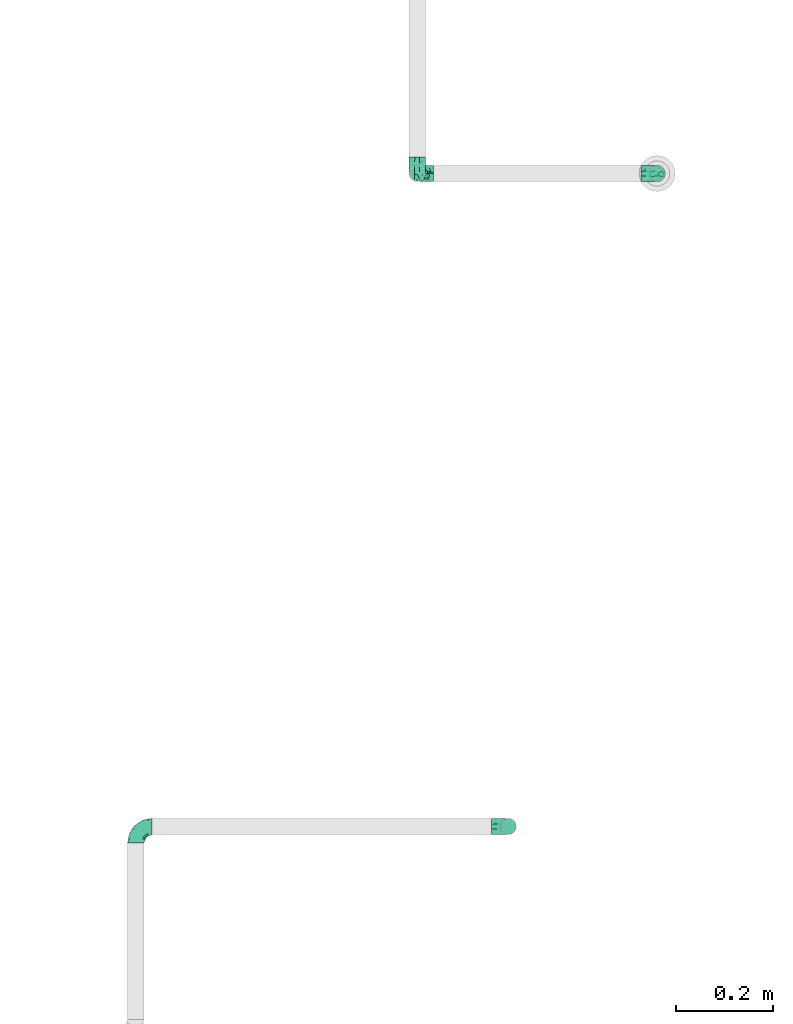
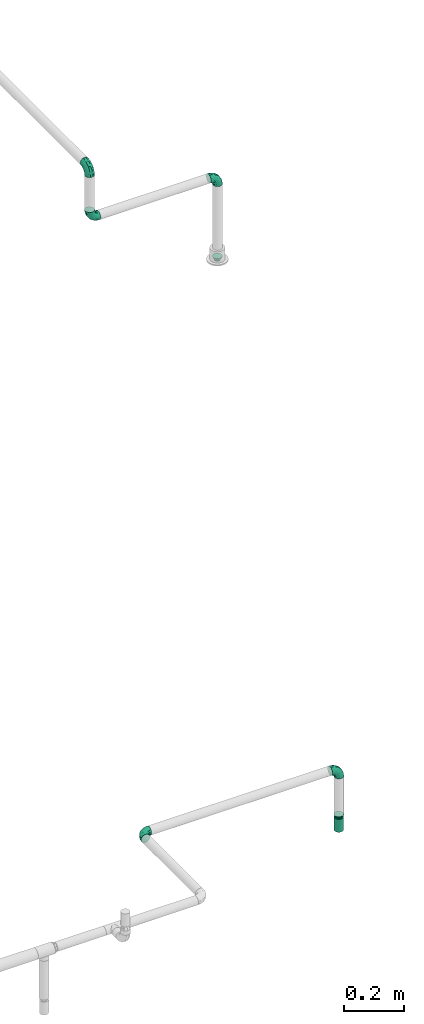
# One storey, part 73 of 95: 7 flow fittings, 1 flow terminal.
"""IFC2X3 building model written with IfcOpenShell, lengths in millimetres."""

from ifc_helpers import new_model, entity, si_unit, converted_unit, derived_unit, direction, frame, origin_with_axes, place, context, subcontext, project, spatial, open_shell, surface_model, source, transform, mapped, type_object, element, save


model = new_model("IFC2X3")

# Units and contexts
model_context = context("Model", 3, precision=0.01, world=frame((0.0, 4.29681676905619e-09, 0.0)), true_north=direction((4.01073788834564e-13, 1.0)))
plan_context = context("Plan", 3, precision=0.01, world=frame((0.0, 4.29681676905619e-09, 0.0)), true_north=direction((4.01073788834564e-13, 1.0)))
body_context = subcontext(model_context, "Body", "Model", "MODEL_VIEW")
ifc_project = project(units=[converted_unit("PLANEANGLEUNIT", "DEGREE", entity("IfcPositiveLengthMeasure", 0.0174532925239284), si_unit("PLANEANGLEUNIT", "RADIAN"), dimensions=[0, 0, 0, 0, 0, 0, 0]), si_unit("AREAUNIT", "SQUARE_METRE"), si_unit("LENGTHUNIT", "METRE", prefix="MILLI"), si_unit("MASSUNIT", "GRAM", prefix="KILO"), si_unit("POWERUNIT", "WATT"), si_unit("PRESSUREUNIT", "PASCAL"), si_unit("FORCEUNIT", "NEWTON", prefix="KILO"), si_unit("ELECTRICVOLTAGEUNIT", "VOLT"), si_unit("ELECTRICCURRENTUNIT", "AMPERE"), si_unit("THERMODYNAMICTEMPERATUREUNIT", "DEGREE_CELSIUS"), si_unit("TIMEUNIT", "SECOND"), si_unit("VOLUMEUNIT", "CUBIC_METRE"), derived_unit("LINEARVELOCITYUNIT", [(si_unit("LENGTHUNIT", "METRE"), 1), (si_unit("TIMEUNIT", "SECOND"), -1)]), derived_unit("VOLUMETRICFLOWRATEUNIT", [(si_unit("VOLUMEUNIT", "CUBIC_METRE"), 1), (si_unit("TIMEUNIT", "SECOND"), -1)]), derived_unit("THERMALTRANSMITTANCEUNIT", [(si_unit("POWERUNIT", "WATT"), 1), (si_unit("THERMODYNAMICTEMPERATUREUNIT", "KELVIN"), -1), (si_unit("AREAUNIT", "SQUARE_METRE"), -1)]), derived_unit("SOUNDPRESSUREUNIT", [(si_unit("PRESSUREUNIT", "PASCAL"), 1)])], contexts=[model_context, plan_context])

# Site, building, storey
site_placement = place(None, frame((0.0, -4.29681676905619e-09, 0.0), z_axis=(0.0, 0.0, 1.0), x_axis=(1.0, 0.0, 0.0)))
site = spatial("IfcSite", under=ifc_project, at=site_placement, CompositionType="ELEMENT")
building_placement = place(site_placement, frame((0.0, 4.29681676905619e-09, 0.0), z_axis=(0.0, 0.0, 1.0), x_axis=(1.0, 0.0, 0.0)))
building = spatial("IfcBuilding", under=site, at=building_placement, Name="mc-building", CompositionType="ELEMENT")
storey_placement = place(building_placement, frame((0.0, 0.0, 210900.0), z_axis=(0.0, 0.0, 1.0), x_axis=(1.0, 0.0, 0.0)))
storey = spatial("IfcBuildingStorey", under=building, at=storey_placement, Name="Nivå F", CompositionType="ELEMENT", Elevation=210900.0)

# Flow fittings
pipe_fitting_type_1 = type_object("IfcPipeFittingType", Name="magi_pipe_fe_reducer_centric_short_NOR", PredefinedType="TRANSITION")
shared_shape_1 = source(origin_with_axes(), body_context, "Body", "SurfaceModel", [
    surface_model("IfcShellBasedSurfaceModel", [(14.4, 5.35, -9.26647), (14.4, 0.0, -10.7), (14.4, 2.76936, -10.33541), (14.4, 10.33541, -2.76936), (14.4, 7.56604, -7.56604), (14.4, -10.33541, -2.76936), (14.4, 9.26647, -5.35), (14.4, 0.0, 10.7), (14.4, -5.35, -9.26647), (14.4, -2.76936, -10.33541), (14.4, -7.56604, -7.56604), (14.4, -9.26647, -5.35), (14.4, 10.7, 0.0), (14.4, 10.33541, 2.76936), (14.4, 9.26647, 5.35), (14.4, 7.56604, 7.56604), (14.4, 2.76936, 10.33541), (14.4, 5.35, 9.26647), (14.4, -10.33541, 2.76936), (14.4, -7.56604, 7.56604), (14.4, -9.26647, 5.35), (14.4, -10.7, 0.0), (14.4, -2.76936, 10.33541), (14.4, -5.35, 9.26647), (12.4, 2.76936, 10.33541), (12.4, -10.33541, -2.76936), (12.4, 0.0, 10.7), (12.4, 5.35, 9.26647), (12.4, 7.56604, 7.56604), (12.4, 9.26647, 5.35), (12.4, 10.33541, 2.76936), (12.4, -10.33541, 2.76936), (12.4, -2.76936, 10.33541), (12.4, -7.56604, 7.56604), (12.4, -5.35, 9.26647), (12.4, -9.26647, 5.35), (12.4, -10.7, 0.0), (12.4, 10.33541, -2.76936), (12.4, 5.35, -9.26647), (12.4, 9.26647, -5.35), (12.4, 7.56604, -7.56604), (12.4, 2.76936, -10.33541), (12.4, -9.26647, -5.35), (12.4, -5.35, -9.26647), (12.4, -7.56604, -7.56604), (12.4, 0.0, -10.7), (12.4, -2.76936, -10.33541), (12.4, 10.7, 0.0), (-2.0, 11.9501, 11.9501), (-2.0, 0.0, 16.9), (-2.0, 4.37404, 16.32415), (-2.0, 8.45, 14.63583), (-2.0, 14.63583, 8.45), (-2.0, 16.32415, 4.37404), (-2.0, -16.32415, 4.37404), (-2.0, -8.45, 14.63583), (-2.0, -14.63583, 8.45), (-2.0, -11.9501, 11.9501), (-2.0, -4.37404, 16.32415), (-2.0, -16.32415, -4.37404), (-2.0, -16.9, 0.0), (-2.0, -8.45, -14.63583), (-2.0, 16.32415, -4.37404), (-2.0, 11.9501, -11.9501), (-2.0, 14.63583, -8.45), (-2.0, 8.45, -14.63583), (-2.0, 4.37404, -16.32415), (-2.0, 0.0, -16.9), (-2.0, -11.9501, -11.9501), (-2.0, -14.63583, -8.45), (-2.0, -4.37404, -16.32415), (-2.0, 16.9, 0.0), (0.0, 4.37404, -16.32415), (0.0, 8.45, -14.63583), (0.0, 11.9501, -11.9501), (0.0, 0.0, -16.9), (0.0, 16.32415, -4.37404), (0.0, 16.32415, 4.37404), (0.0, 14.63583, -8.45), (0.0, -8.45, -14.63583), (0.0, -4.37404, -16.32415), (0.0, -11.9501, -11.9501), (0.0, -16.32415, -4.37404), (0.0, -14.63583, -8.45), (0.0, -16.32415, 4.37404), (0.0, 16.9, 0.0), (0.0, 14.63583, 8.45), (0.0, 11.9501, 11.9501), (0.0, 4.37404, 16.32415), (0.0, 8.45, 14.63583), (0.0, 0.0, 16.9), (0.0, -14.63583, 8.45), (0.0, -16.9, 0.0), (0.0, -8.45, 14.63583), (0.0, -11.9501, 11.9501), (0.0, -4.37404, 16.32415), (12.4, 9.3625, -2.31662), (0.0, 14.42505, -5.97505), (0.0, 15.66253, -2.98753), (12.4, -6.6875, -6.94985), (0.0, -13.18758, -8.96258), (0.0, 2.98753, -15.66253), (12.4, 0.0, -9.26647), (12.4, 6.6875, -6.94985), (0.0, 8.96258, -13.18758), (12.4, -9.3625, -2.31662), (0.0, -15.66253, -2.98753), (0.0, -14.42505, -5.97505), (0.0, 5.97505, -14.42505), (0.0, -2.98753, -15.66253), (0.0, -8.96258, -13.18758), (0.0, 13.18758, -8.96258), (12.4, 8.025, -4.63324), (12.4, -2.675, -9.26647), (12.4, 2.675, -9.26647), (0.0, -5.97505, -14.42505), (12.4, -8.025, -4.63324), (12.4, -9.3625, 2.31662), (0.0, -14.42505, 5.97505), (0.0, -15.66253, 2.98753), (12.4, 6.6875, 6.94985), (0.0, 13.18758, 8.96258), (0.0, -2.98753, 15.66253), (12.4, 0.0, 9.26647), (12.4, -6.6875, 6.94985), (0.0, -8.96258, 13.18758), (12.4, 9.3625, 2.31662), (0.0, 15.66253, 2.98753), (0.0, 14.42505, 5.97505), (0.0, -5.97505, 14.42505), (0.0, 2.98753, 15.66253), (0.0, 8.96258, 13.18758), (0.0, -13.18758, 8.96258), (12.4, -8.025, 4.63324), (12.4, 2.675, 9.26647), (12.4, -2.675, 9.26647), (0.0, 5.97505, 14.42505), (12.4, 8.025, 4.63324)], [open_shell([[[0, 1, 2]], [[3, 0, 4]], [[5, 0, 3]], [[3, 4, 6]], [[7, 5, 3]], [[1, 8, 9]], [[1, 0, 8]], [[10, 5, 11]], [[5, 10, 8]], [[0, 5, 8]], [[3, 12, 13]], [[13, 14, 15]], [[13, 15, 16]], [[7, 3, 16]], [[16, 15, 17]], [[7, 18, 5]], [[18, 19, 20]], [[21, 5, 18]], [[19, 22, 23]], [[22, 19, 18]], [[7, 22, 18]], [[13, 16, 3]], [[24, 25, 26]], [[27, 25, 24]], [[28, 29, 30]], [[28, 25, 27]], [[31, 26, 25]], [[32, 33, 34]], [[33, 32, 31]], [[33, 31, 35]], [[32, 26, 31]], [[31, 25, 36]], [[30, 37, 28]], [[25, 28, 37]], [[38, 37, 39]], [[37, 38, 25]], [[38, 39, 40]], [[41, 25, 38]], [[42, 43, 44]], [[43, 42, 25]], [[43, 45, 46]], [[43, 25, 41]], [[41, 45, 43]], [[37, 30, 47]], [[25, 5, 36]], [[42, 11, 25]], [[8, 44, 43]], [[42, 44, 10]], [[9, 43, 46]], [[25, 11, 5]], [[5, 21, 36]], [[9, 8, 43]], [[10, 44, 8]], [[10, 11, 42]], [[1, 9, 46]], [[46, 45, 1]], [[41, 2, 45]], [[38, 0, 41]], [[6, 40, 39]], [[38, 40, 4]], [[3, 39, 37]], [[38, 4, 0]], [[0, 2, 41]], [[12, 3, 37]], [[6, 39, 3]], [[6, 4, 40]], [[47, 12, 37]], [[45, 2, 1]], [[30, 13, 47]], [[29, 14, 30]], [[17, 28, 27]], [[29, 28, 15]], [[16, 27, 24]], [[30, 14, 13]], [[13, 12, 47]], [[16, 17, 27]], [[15, 28, 17]], [[15, 14, 29]], [[7, 16, 24]], [[24, 26, 7]], [[32, 22, 26]], [[34, 23, 32]], [[20, 33, 35]], [[34, 33, 19]], [[18, 35, 31]], [[34, 19, 23]], [[23, 22, 32]], [[21, 18, 31]], [[20, 35, 18]], [[20, 19, 33]], [[36, 21, 31]], [[26, 22, 7]], [[48, 49, 50]], [[48, 50, 51]], [[48, 52, 53]], [[48, 53, 49]], [[49, 53, 54]], [[55, 56, 57]], [[55, 58, 49]], [[56, 55, 49]], [[49, 54, 56]], [[54, 59, 60]], [[54, 53, 61]], [[53, 62, 63]], [[63, 62, 64]], [[63, 65, 66]], [[61, 53, 63]], [[67, 63, 66]], [[59, 68, 69]], [[68, 59, 61]], [[61, 67, 70]], [[59, 54, 61]], [[63, 67, 61]], [[53, 71, 62]], [[72, 73, 74]], [[75, 72, 74]], [[74, 76, 77]], [[76, 74, 78]], [[74, 77, 79]], [[75, 79, 80]], [[75, 74, 79]], [[81, 82, 83]], [[82, 81, 79]], [[79, 84, 82]], [[77, 76, 85]], [[77, 86, 87]], [[77, 87, 88]], [[88, 84, 79]], [[88, 87, 89]], [[84, 88, 90]], [[90, 91, 84]], [[92, 82, 84]], [[91, 93, 94]], [[91, 90, 93]], [[93, 90, 95]], [[79, 77, 88]], [[59, 82, 60]], [[69, 83, 59]], [[79, 68, 61]], [[69, 68, 81]], [[80, 61, 70]], [[59, 83, 82]], [[82, 92, 60]], [[80, 79, 61]], [[81, 68, 79]], [[81, 83, 69]], [[75, 80, 70]], [[70, 67, 75]], [[66, 72, 67]], [[65, 73, 66]], [[78, 63, 64]], [[65, 63, 74]], [[76, 64, 62]], [[65, 74, 73]], [[73, 72, 66]], [[85, 76, 62]], [[78, 64, 76]], [[78, 74, 63]], [[71, 85, 62]], [[67, 72, 75]], [[53, 77, 71]], [[52, 86, 53]], [[89, 48, 51]], [[52, 48, 87]], [[88, 51, 50]], [[53, 86, 77]], [[77, 85, 71]], [[88, 89, 51]], [[87, 48, 89]], [[87, 86, 52]], [[90, 88, 50]], [[50, 49, 90]], [[58, 95, 49]], [[55, 93, 58]], [[91, 57, 56]], [[55, 57, 94]], [[84, 56, 54]], [[55, 94, 93]], [[93, 95, 58]], [[92, 84, 54]], [[91, 56, 84]], [[91, 94, 57]], [[60, 92, 54]], [[49, 95, 90]], [[27, 34, 47]], [[47, 34, 43]], [[43, 38, 47]], [[43, 34, 36]], [[90, 87, 94]], [[92, 94, 87]], [[87, 74, 92]], [[75, 92, 74]], [[81, 92, 75]], [[74, 87, 85]], [[96, 97, 98]], [[81, 99, 100]], [[101, 102, 75]], [[98, 85, 47]], [[74, 103, 104]], [[104, 103, 38]], [[105, 106, 107]], [[38, 108, 104]], [[102, 109, 75]], [[110, 99, 81]], [[47, 96, 98]], [[103, 111, 112]], [[109, 102, 113]], [[36, 92, 106]], [[102, 101, 114]], [[110, 115, 43]], [[96, 112, 97]], [[107, 116, 105]], [[36, 106, 105]], [[113, 115, 109]], [[43, 115, 113]], [[116, 107, 100]], [[108, 38, 114]], [[111, 103, 74]], [[111, 97, 112]], [[99, 110, 43]], [[116, 100, 99]], [[101, 108, 114]], [[117, 118, 119]], [[87, 120, 121]], [[122, 123, 90]], [[119, 92, 36]], [[94, 124, 125]], [[125, 124, 34]], [[126, 127, 128]], [[34, 129, 125]], [[123, 130, 90]], [[131, 120, 87]], [[36, 117, 119]], [[124, 132, 133]], [[130, 123, 134]], [[47, 85, 127]], [[123, 122, 135]], [[131, 136, 27]], [[117, 133, 118]], [[128, 137, 126]], [[47, 127, 126]], [[134, 136, 130]], [[27, 136, 134]], [[137, 128, 121]], [[129, 34, 135]], [[132, 124, 94]], [[132, 118, 133]], [[120, 131, 27]], [[137, 121, 120]], [[122, 129, 135]]])]),
])
for number, where, z_axis, x_axis, name in (
    (1, (523297.57166, 458598.02191, 3769.25200000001), (0.0, -1.0, 0.0), (0.0, 0.0, -1.0), "magi_pipe_fe_reducer_centric_short_NOR"),
    (2, (522990.24238, 457251.63483, 2409.35200000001), (0.0, -1.0, 0.0), (0.0, 0.0, -1.0), "magi_pipe_fe_reducer_centric_short_NOR"),
):
    element("IfcFlowFitting", number, at=place(storey_placement, frame(where, z_axis=z_axis, x_axis=x_axis)), inside=storey, type_object=pipe_fitting_type_1, Name=name, context=body_context, shape_type="MappedRepresentation", body=[
        mapped(shared_shape_1, transform((0.0, 0.0, 0.0), scale=1.0)),
    ])
pipe_fitting_type_2 = type_object("IfcPipeFittingType", Name="magi_pipe_fe_elbow_short_001", PredefinedType="BEND")
shared_shape_2 = source(origin_with_axes(), body_context, "Body", "SurfaceModel", [
    surface_model("IfcShellBasedSurfaceModel", [(-33.8, 8.45, -14.63583), (-33.8, 4.37404, -16.32415), (-33.8, 11.9501, -11.9501), (-33.8, -11.9501, -11.9501), (-33.8, -14.63583, -8.45), (-33.8, -8.45, -14.63583), (-33.8, 0.0, -16.9), (-33.8, -4.37404, -16.32415), (-33.8, -4.37404, 16.32415), (-33.8, 0.0, 16.9), (-33.8, -8.45, 14.63583), (-33.8, 16.32415, -4.37404), (-33.8, 14.63583, -8.45), (-33.8, -16.32415, -4.37404), (-33.8, -16.9, 0.0), (-33.8, -16.32415, 4.37404), (-33.8, 11.9501, 11.9501), (-33.8, 14.63583, 8.45), (-33.8, 16.32415, 4.37404), (-33.8, 4.37404, 16.32415), (-33.8, 8.45, 14.63583), (-33.8, -14.63583, 8.45), (-33.8, -11.9501, 11.9501), (-33.8, 16.9, 0.0), (-11.9501, 33.8, -11.9501), (0.0, 33.8, -16.9), (-4.37404, 33.8, -16.32415), (-8.45, 33.8, -14.63583), (-14.63583, 33.8, -8.45), (-16.32415, 33.8, -4.37404), (14.63583, 33.8, -8.45), (8.45, 33.8, 14.63583), (16.32415, 33.8, -4.37404), (8.45, 33.8, -14.63583), (11.9501, 33.8, -11.9501), (4.37404, 33.8, -16.32415), (16.32415, 33.8, 4.37404), (16.9, 33.8, 0.0), (-11.9501, 33.8, 11.9501), (-16.32415, 33.8, 4.37404), (-14.63583, 33.8, 8.45), (-8.45, 33.8, 14.63583), (-4.37404, 33.8, 16.32415), (11.9501, 33.8, 11.9501), (14.63583, 33.8, 8.45), (0.0, 33.8, 16.9), (4.37404, 33.8, 16.32415), (-16.9, 33.8, 0.0), (-24.79389, -13.12945, 9.48721), (-22.19287, -9.75018, 12.59315), (-24.09897, -14.97035, 0.0), (-14.93934, -10.76256, 8.5297), (-22.46095, -14.75051, 5.27077), (14.75051, 22.46094, 5.27077), (11.9251, 13.23888, 4.33236), (13.04069, 14.39795, 0.0), (7.71387, 13.68847, 11.55891), (9.75018, 22.19287, 12.59315), (4.10169, 13.0571, 14.04018), (-24.84007, -6.39063, 15.2048), (-25.81779, -2.23879, 16.61097), (-23.66549, 2.59054, 16.87119), (-26.50418, 14.06512, 11.08152), (-24.21253, 17.66365, 7.72657), (-29.58514, 15.86957, 7.00283), (-6.17382, -7.5455, 0.0), (-13.23888, -11.9251, 4.33236), (-14.39795, -13.04069, 0.0), (-17.81434, 18.87373, 11.97104), (-6.30846, 29.15138, 15.82987), (-2.31622, 25.28002, 16.85849), (-29.23923, 10.23435, 13.77053), (-1.45439, -2.85688, 7.61475), (-0.28326, 0.34872, 10.09509), (-5.74484, -4.04709, 10.4122), (-4.41137, 11.31918, 16.59407), (-8.39727, 3.10034, 15.7812), (-1.72649, 9.1306, 15.53089), (-17.39909, 24.75344, 7.64977), (-26.19233, 20.0512, 0.0), (-28.14518, 17.29657, 4.25857), (-26.05147, 6.6281, 15.96447), (-5.87354, 16.61944, 16.86968), (-12.51807, 12.51807, 16.48937), (-10.06312, 7.38516, 16.81295), (-3.01882, 3.01882, 13.81718), (-13.0571, -4.10169, 14.04018), (-16.82553, -0.15166, 16.38038), (10.76256, 14.93934, 8.5297), (13.12945, 24.79389, 9.48721), (6.39063, 24.84007, 15.2048), (2.23879, 25.81779, 16.61097), (-13.68847, -7.71387, 11.55891), (14.97035, 24.09897, 0.0), (-7.30894, 22.89991, 16.09489), (-10.67958, 26.17414, 14.008), (-12.78295, 18.26924, 15.06066), (-13.88562, 22.45231, 12.93244), (-18.04944, 15.16501, 14.04434), (-23.11658, 20.08178, 4.02986), (-21.84989, 21.84989, 0.0), (-18.55817, 25.48277, 3.93065), (-13.95142, 26.94732, 11.03289), (-18.57098, 7.23906, 16.59756), (-16.58335, 4.14122, 16.89279), (-17.96666, 11.46709, 15.63151), (-9.84453, 17.54304, 16.18938), (0.15166, 16.82553, 16.38038), (-23.27207, 11.47201, 14.23154), (3.84842, 5.86994, 10.70473), (-8.0212, -7.54413, 7.93275), (1.00345, -2.19508, 4.57414), (5.13203, 3.01004, 5.90201), (5.24161, 1.7543, 2.53265), (8.70457, 7.04947, 3.99182), (-20.0512, 26.19233, 0.0), (8.4852, 8.76699, 7.09296), (-4.55488, -6.72064, 4.90681), (2.05031, -2.05031, 0.0), (7.5455, 6.17382, 0.0), (-26.75399, 2.1369, -16.845), (-14.61995, 24.73803, -11.27736), (-28.45274, -13.45335, -9.81895), (-26.00469, 6.63555, -15.96645), (-23.06726, 20.04573, -4.26202), (-13.80647, -4.26506, -14.17873), (-14.67501, -0.21081, -16.07388), (-6.7902, -0.2828, -13.8478), (-24.53586, 11.08096, -14.13417), (-26.72048, 14.00837, -11.05776), (10.0967, 24.44989, -12.75976), (5.83237, 21.40218, -15.03047), (6.66249, 28.54238, -15.38093), (-20.38182, 15.48705, -12.74596), (12.53268, 21.23441, -9.15363), (12.54494, 15.67504, -5.54878), (9.7522, 12.89279, -8.66343), (-15.65186, 19.64213, -13.01327), (-12.03528, 20.66498, -14.67665), (-15.61907, 15.61906, -14.83879), (-25.56551, -15.26206, 0.0), (-24.65452, -15.12934, -5.50955), (13.45335, 28.45274, -9.81895), (15.12934, 24.65452, -5.50955), (-7.35442, -8.31014, -5.65563), (-15.67504, -12.54494, -5.54878), (-24.44989, -10.0967, -12.75976), (0.16522, 0.41303, -9.71728), (-5.70658, -5.33066, -8.89288), (-5.13869, -2.37198, -11.53565), (-21.23441, -12.53268, -9.15363), (0.71146, 7.93863, -14.09382), (0.21081, 14.67501, -16.07388), (3.49291, 14.42772, -14.76381), (-24.89911, -2.13088, -16.591), (-28.54238, -6.66249, -15.38093), (-18.44386, -7.71663, -13.26957), (2.13088, 24.89911, -16.591), (-28.64342, 17.44413, -2.89318), (1.70017, -1.28722, -5.09504), (-16.57067, 26.81947, -7.36596), (-17.69055, 27.4263, -3.76405), (-12.89279, -9.7522, -8.66343), (-5.96611, 5.96611, -15.95814), (-20.53709, 20.09345, -8.28985), (-2.1369, 26.75399, -16.845), (-6.89872, 24.58781, -16.02578), (-10.60739, 26.53157, -13.98044), (-21.40218, -5.83237, -15.03047), (2.93192, 5.89627, -11.55917), (6.89393, 12.61842, -11.82233), (5.58056, 5.95325, -8.79455), (-3.99512, 18.61798, -16.89635), (8.31014, 7.35442, -5.65563), (-9.1383, 9.86148, -16.89041), (-9.99983, 16.02119, -16.39699), (-16.68576, 9.78031, -16.34199), (-27.01915, 16.61158, -7.12979), (15.26206, 25.56551, 0.0), (-18.61798, 3.99512, -16.89635), (-19.37495, 27.82495, 0.0), (-12.61842, -6.89393, -11.82233), (-18.84705, 19.14018, -10.96545)], [open_shell([[[0, 1, 2]], [[3, 4, 5]], [[6, 7, 5]], [[8, 9, 10]], [[1, 6, 2]], [[11, 12, 2]], [[4, 2, 6]], [[2, 13, 10]], [[5, 4, 6]], [[2, 4, 13]], [[14, 15, 13]], [[11, 2, 16]], [[11, 17, 18]], [[11, 16, 17]], [[19, 20, 16]], [[16, 2, 10]], [[19, 16, 10]], [[21, 22, 15]], [[22, 13, 15]], [[22, 10, 13]], [[10, 9, 19]], [[11, 18, 23]], [[24, 25, 26]], [[24, 26, 27]], [[24, 28, 29]], [[25, 24, 30]], [[31, 32, 24]], [[33, 30, 34]], [[33, 35, 25]], [[25, 30, 33]], [[32, 30, 24]], [[32, 36, 37]], [[38, 24, 29]], [[39, 40, 29]], [[40, 38, 29]], [[38, 41, 42]], [[38, 31, 24]], [[31, 38, 42]], [[36, 43, 44]], [[36, 32, 43]], [[31, 45, 46]], [[32, 31, 43]], [[42, 45, 31]], [[39, 29, 47]], [[22, 48, 49]], [[15, 14, 50]], [[51, 48, 52]], [[53, 54, 55]], [[48, 22, 21]], [[15, 52, 21]], [[56, 57, 58]], [[49, 10, 22]], [[49, 59, 10]], [[9, 60, 61]], [[62, 63, 64]], [[65, 66, 67]], [[57, 43, 31]], [[62, 68, 63]], [[42, 69, 70]], [[20, 71, 16]], [[8, 60, 9]], [[72, 73, 74]], [[75, 76, 77]], [[16, 62, 17]], [[40, 39, 78]], [[79, 23, 80]], [[64, 18, 17]], [[9, 61, 19]], [[19, 81, 20]], [[82, 83, 84]], [[74, 85, 86]], [[59, 86, 87]], [[88, 89, 57]], [[90, 31, 46]], [[44, 53, 36]], [[46, 45, 91]], [[54, 53, 88]], [[44, 89, 53]], [[92, 86, 49]], [[89, 44, 43]], [[10, 59, 8]], [[53, 55, 93]], [[93, 36, 53]], [[66, 52, 67]], [[94, 82, 70]], [[95, 96, 94]], [[97, 98, 96]], [[79, 99, 100]], [[41, 38, 95]], [[101, 100, 99]], [[68, 78, 63]], [[42, 41, 69]], [[23, 18, 80]], [[95, 94, 69]], [[78, 101, 99]], [[38, 102, 95]], [[70, 45, 42]], [[97, 95, 102]], [[15, 50, 52]], [[90, 57, 31]], [[57, 90, 58]], [[81, 19, 61]], [[103, 104, 84]], [[105, 81, 103]], [[38, 40, 102]], [[106, 96, 83]], [[94, 106, 82]], [[91, 70, 107]], [[71, 62, 16]], [[62, 108, 98]], [[86, 59, 49]], [[67, 52, 50]], [[60, 59, 87]], [[92, 49, 51]], [[86, 85, 76]], [[91, 90, 46]], [[37, 36, 93]], [[107, 77, 58]], [[107, 58, 90]], [[58, 85, 109]], [[110, 74, 92]], [[72, 74, 110]], [[66, 51, 52]], [[72, 111, 112]], [[113, 114, 112]], [[56, 88, 57]], [[52, 48, 21]], [[49, 48, 51]], [[57, 89, 43]], [[53, 89, 88]], [[103, 81, 61]], [[71, 81, 108]], [[18, 64, 80]], [[63, 78, 99]], [[47, 115, 101]], [[101, 115, 100]], [[40, 78, 102]], [[68, 102, 78]], [[97, 96, 95]], [[105, 98, 108]], [[103, 84, 83]], [[107, 70, 82]], [[76, 84, 87]], [[82, 84, 75]], [[70, 91, 45]], [[90, 91, 107]], [[59, 60, 8]], [[61, 60, 87]], [[73, 85, 74]], [[109, 112, 116]], [[103, 61, 104]], [[105, 103, 83]], [[96, 105, 83]], [[81, 105, 108]], [[96, 98, 105]], [[62, 98, 68]], [[61, 87, 104]], [[87, 84, 104]], [[86, 76, 87]], [[77, 76, 85]], [[58, 77, 85]], [[75, 77, 107]], [[82, 75, 107]], [[76, 75, 84]], [[81, 71, 20]], [[62, 71, 108]], [[95, 69, 41]], [[70, 69, 94]], [[62, 64, 17]], [[80, 63, 99]], [[63, 80, 64]], [[80, 99, 79]], [[66, 65, 117]], [[110, 66, 117]], [[112, 114, 116]], [[118, 117, 65]], [[110, 92, 51]], [[112, 111, 113]], [[119, 55, 54]], [[74, 86, 92]], [[58, 109, 56]], [[116, 56, 109]], [[66, 110, 51]], [[72, 110, 117]], [[111, 72, 117]], [[73, 112, 109]], [[117, 118, 111]], [[113, 111, 118]], [[118, 119, 113]], [[114, 119, 54]], [[119, 114, 113]], [[116, 54, 88]], [[54, 116, 114]], [[116, 88, 56]], [[112, 73, 72]], [[85, 73, 109]], [[78, 39, 101]], [[47, 101, 39]], [[102, 68, 97]], [[97, 68, 98]], [[82, 106, 83]], [[94, 96, 106]], [[1, 120, 6]], [[28, 24, 121]], [[3, 122, 4]], [[0, 123, 1]], [[100, 124, 79]], [[125, 126, 127]], [[128, 2, 129]], [[130, 131, 132]], [[128, 129, 133]], [[134, 135, 136]], [[137, 138, 139]], [[128, 0, 2]], [[67, 140, 141]], [[134, 142, 143]], [[141, 13, 4]], [[144, 65, 145]], [[146, 3, 5]], [[147, 148, 149]], [[145, 141, 150]], [[151, 152, 153]], [[154, 7, 6]], [[5, 155, 146]], [[150, 146, 156]], [[155, 5, 7]], [[143, 135, 134]], [[35, 157, 25]], [[23, 79, 158]], [[148, 159, 144]], [[160, 161, 29]], [[145, 162, 144]], [[163, 152, 151]], [[29, 28, 160]], [[121, 164, 160]], [[33, 34, 130]], [[25, 165, 26]], [[26, 165, 166]], [[142, 34, 30]], [[24, 27, 167]], [[124, 161, 164]], [[157, 35, 132]], [[155, 154, 168]], [[123, 0, 128]], [[169, 170, 171]], [[172, 157, 152]], [[26, 166, 27]], [[132, 35, 33]], [[142, 130, 34]], [[168, 154, 126]], [[136, 135, 173]], [[133, 137, 139]], [[2, 12, 129]], [[170, 131, 130]], [[30, 32, 143]], [[172, 174, 175]], [[176, 123, 128]], [[158, 177, 11]], [[135, 55, 119]], [[167, 27, 166]], [[175, 166, 172]], [[137, 167, 138]], [[122, 141, 4]], [[140, 14, 13]], [[32, 37, 178]], [[170, 130, 134]], [[152, 157, 131]], [[165, 157, 172]], [[153, 170, 151]], [[152, 163, 174]], [[168, 125, 156]], [[122, 146, 150]], [[120, 154, 6]], [[179, 174, 126]], [[179, 126, 154]], [[126, 163, 127]], [[162, 145, 150]], [[140, 13, 141]], [[32, 178, 143]], [[55, 143, 178]], [[177, 129, 12]], [[128, 133, 139]], [[176, 128, 139]], [[120, 123, 179]], [[121, 160, 28]], [[161, 100, 180]], [[166, 175, 138]], [[121, 24, 167]], [[161, 47, 29]], [[79, 124, 158]], [[124, 164, 177]], [[161, 124, 100]], [[136, 171, 170]], [[127, 163, 151]], [[147, 171, 159]], [[148, 144, 162]], [[127, 151, 169]], [[127, 181, 125]], [[129, 177, 164]], [[12, 11, 177]], [[159, 65, 144]], [[67, 141, 145]], [[143, 55, 135]], [[135, 119, 173]], [[123, 120, 1]], [[154, 120, 179]], [[157, 165, 25]], [[166, 165, 172]], [[172, 152, 174]], [[176, 139, 175]], [[126, 174, 163]], [[176, 174, 179]], [[174, 176, 175]], [[123, 176, 179]], [[150, 181, 162]], [[127, 149, 181]], [[181, 148, 162]], [[159, 148, 147]], [[171, 136, 173]], [[170, 134, 136]], [[159, 171, 173]], [[171, 147, 169]], [[169, 147, 149]], [[151, 170, 169]], [[164, 182, 129]], [[182, 121, 137]], [[181, 149, 148]], [[169, 149, 127]], [[182, 137, 133]], [[167, 137, 121]], [[166, 138, 167]], [[175, 139, 138]], [[129, 182, 133]], [[121, 182, 164]], [[161, 160, 164]], [[47, 161, 180]], [[177, 158, 124]], [[23, 158, 11]], [[130, 132, 33]], [[157, 132, 131]], [[143, 142, 30]], [[130, 142, 134]], [[154, 155, 7]], [[146, 155, 168]], [[146, 122, 3]], [[141, 122, 150]], [[152, 131, 153]], [[159, 119, 118]], [[67, 145, 65]], [[170, 153, 131]], [[119, 159, 173]], [[159, 118, 65]], [[156, 125, 181]], [[126, 125, 168]], [[150, 156, 181]], [[168, 156, 146]]])]),
])
for number, where, z_axis, x_axis, name in (
    (3, (522802.76487, 458598.02191, 4310.0), (1.0, 0.0, 0.0), (0.0, -1.0, 0.0), "magi_pipe_fe_elbow_short_001"),
    (4, (522802.76487, 458598.02191, 4100.0), (0.0, -1.0, 0.0), (0.0, 0.0, -1.0), "magi_pipe_fe_elbow_short_001"),
    (5, (523297.57166, 458598.02191, 4100.0), (0.0, 1.0, 0.0), (1.0, 0.0, 0.0), "magi_pipe_fe_elbow_short_001"),
    (6, (522990.24238, 457251.63483, 2600.0), (0.0, 1.0, 0.0), (1.0, 0.0, 0.0), "magi_pipe_fe_elbow_short_001"),
    (7, (522222.4, 457251.63483, 2600.0), (0.0, 0.0, 1.0), (-1.0, 0.0, 0.0), "magi_pipe_fe_elbow_short_001"),
):
    element("IfcFlowFitting", number, at=place(storey_placement, frame(where, z_axis=z_axis, x_axis=x_axis)), inside=storey, type_object=pipe_fitting_type_2, Name=name, context=body_context, shape_type="MappedRepresentation", body=[
        mapped(shared_shape_2, transform((0.0, 0.0, 0.0), scale=1.0)),
    ])

# Flow terminal
fire_suppression_terminal_type = type_object("IfcFireSuppressionTerminalType", Name="SP-15-K80-68DGR-STD-HIMLING", PredefinedType="NOTDEFINED")
shared_shape_3 = source(origin_with_axes(), body_context, "Body", "SurfaceModel", [
    surface_model("IfcShellBasedSurfaceModel", [(4.1411, -15.45481, 53.0), (8.0, -13.85641, 53.0), (11.31371, -11.31371, 53.0), (-8.0, -13.85641, 53.0), (15.45481, -4.1411, 53.0), (16.0, 0.0, 53.0), (13.85641, -8.0, 53.0), (0.0, -16.0, 53.0), (-4.1411, -15.45481, 53.0), (-13.85641, -8.0, 53.0), (-11.31371, -11.31371, 53.0), (-15.45481, -4.1411, 53.0), (15.45481, 4.1411, 53.0), (13.85641, 8.0, 53.0), (11.31371, 11.31371, 53.0), (-4.1411, 15.45481, 53.0), (8.0, 13.85641, 53.0), (4.1411, 15.45481, 53.0), (0.0, 16.0, 53.0), (-13.85641, 8.0, 53.0), (-15.45481, 4.1411, 53.0), (-16.0, 0.0, 53.0), (-11.31371, 11.31371, 53.0), (-8.0, 13.85641, 53.0), (0.0, 16.0, 0.0), (4.1411, 15.45481, 0.0), (8.0, 13.85641, 0.0), (-4.1411, 15.45481, 0.0), (11.31371, 11.31371, 0.0), (13.85641, 8.0, 0.0), (15.45481, 4.1411, 0.0), (-15.45481, -4.1411, 0.0), (-11.31371, 11.31371, 0.0), (-8.0, 13.85641, 0.0), (-13.85641, 8.0, 0.0), (-15.45481, 4.1411, 0.0), (-16.0, 0.0, 0.0), (4.1411, -15.45481, 0.0), (16.0, 0.0, 0.0), (15.45481, -4.1411, 0.0), (13.85641, -8.0, 0.0), (11.31371, -11.31371, 0.0), (8.0, -13.85641, 0.0), (-8.0, -13.85641, 0.0), (-13.85641, -8.0, 0.0), (-11.31371, -11.31371, 0.0), (0.0, -16.0, 0.0), (-4.1411, -15.45481, 0.0)], [open_shell([[[0, 1, 2]], [[3, 0, 2]], [[4, 5, 2]], [[4, 2, 6]], [[3, 2, 5]], [[7, 3, 8]], [[7, 0, 3]], [[3, 9, 10]], [[9, 3, 11]], [[5, 11, 3]], [[5, 12, 11]], [[12, 13, 14]], [[15, 12, 14]], [[16, 17, 18]], [[14, 16, 15]], [[18, 15, 16]], [[11, 19, 20]], [[21, 11, 20]], [[22, 15, 23]], [[15, 22, 19]], [[19, 11, 15]], [[11, 12, 15]], [[24, 25, 26]], [[27, 24, 26]], [[28, 29, 30]], [[27, 26, 28]], [[27, 28, 31]], [[27, 32, 33]], [[32, 27, 34]], [[34, 31, 35]], [[31, 34, 27]], [[35, 31, 36]], [[28, 30, 31]], [[37, 38, 39]], [[37, 39, 40]], [[41, 42, 37]], [[41, 37, 40]], [[38, 37, 43]], [[44, 43, 45]], [[43, 44, 31]], [[43, 46, 47]], [[43, 31, 38]], [[37, 46, 43]], [[38, 31, 30]], [[11, 31, 44]], [[45, 9, 44]], [[3, 43, 47]], [[45, 43, 10]], [[8, 47, 46]], [[31, 21, 36]], [[31, 11, 21]], [[44, 9, 11]], [[45, 10, 9]], [[3, 10, 43]], [[47, 8, 3]], [[46, 7, 8]], [[0, 37, 42]], [[41, 1, 42]], [[6, 40, 39]], [[41, 40, 2]], [[4, 39, 38]], [[37, 0, 7]], [[42, 1, 0]], [[41, 2, 1]], [[40, 6, 2]], [[4, 6, 39]], [[38, 5, 4]], [[37, 7, 46]], [[12, 38, 30]], [[13, 30, 29]], [[16, 26, 25]], [[17, 25, 24]], [[30, 13, 12]], [[12, 5, 38]], [[28, 14, 13]], [[28, 26, 14]], [[14, 26, 16]], [[25, 17, 16]], [[28, 13, 29]], [[24, 18, 17]], [[15, 27, 33]], [[32, 23, 33]], [[19, 34, 35]], [[32, 34, 22]], [[20, 35, 36]], [[27, 15, 18]], [[33, 23, 15]], [[32, 22, 23]], [[34, 19, 22]], [[20, 19, 35]], [[36, 21, 20]], [[27, 18, 24]]])]),
])
flow_terminal_placement = place(storey_placement, frame((522990.24238, 457251.63483, 2400.0), z_axis=(0.0, 0.0, -1.0), x_axis=(-1.0, 0.0, 0.0)))
element("IfcFlowTerminal", 8, at=flow_terminal_placement, inside=storey, type_object=fire_suppression_terminal_type, Name="SP-15-K80-68DGR-STD-HIMLING", context=body_context, shape_type="MappedRepresentation", body=[
    mapped(shared_shape_3, transform((0.0, 0.0, 0.0), scale=1.0)),
])

save(model, "model.ifc")
